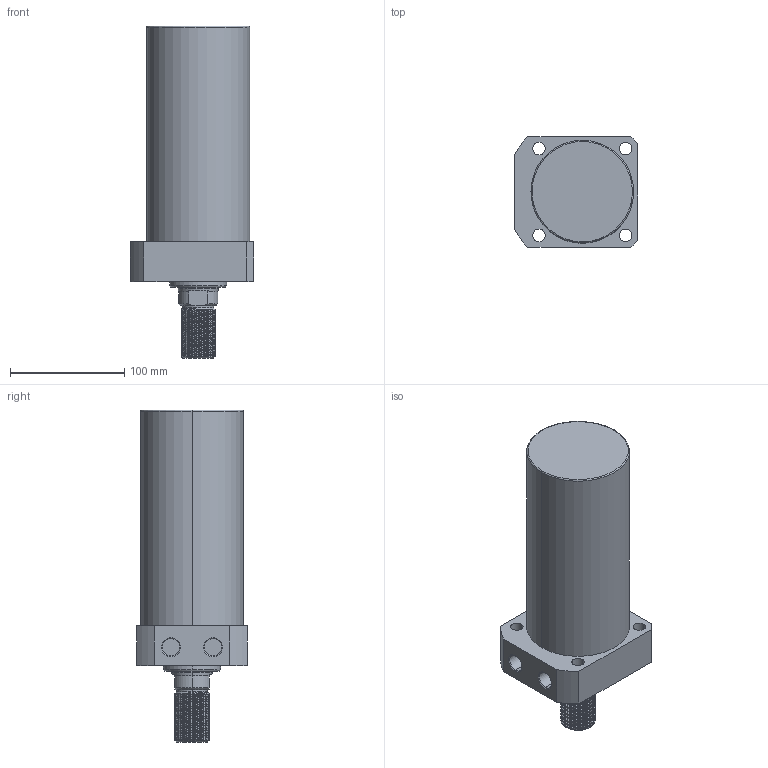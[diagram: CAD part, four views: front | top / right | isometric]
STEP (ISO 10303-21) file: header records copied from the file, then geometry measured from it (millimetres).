
FILE_DESCRIPTION (( 'STEP AP214' ), '1' );
FILE_NAME ('CLLR-090CT-145.STEP', '2020-01-10T02:47:01', ( 'Windows' ), ( 'Microsoft' ), 'SwSTEP 2.0', 'SolidWorks 2015', '' );
FILE_SCHEMA (( 'AUTOMOTIVE_DESIGN' ));
Length unit declared in the file: millimetre
Products named in the file (1): CLLR-090CT-145
Bounding box: 108 x 97 x 291 mm (x, y, z)
Volume: 1596401.5 mm3; surface area: 102171.7 mm2
Topology: 1 solids, 1 shells, 125 faces, 331 edges, 216 vertices
Faces by surface type: cylinder 85, plane 20, cone 16, torus 2, bspline 2
Entity records: 7010 total; most frequent: CARTESIAN_POINT 4114, ORIENTED_EDGE 662, DIRECTION 530, EDGE_CURVE 331, VERTEX_POINT 216, AXIS2_PLACEMENT_3D 204, EDGE_LOOP 141, FACE_OUTER_BOUND 125
